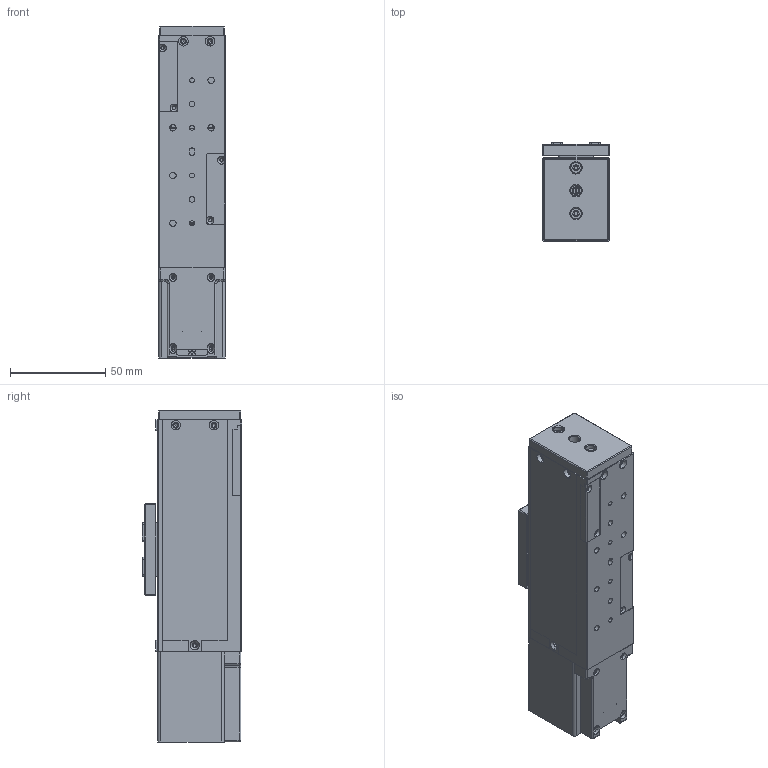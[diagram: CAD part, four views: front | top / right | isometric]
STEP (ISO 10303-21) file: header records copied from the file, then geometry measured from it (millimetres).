
FILE_DESCRIPTION (( 'STEP AP203' ), '1' );
FILE_NAME ('EMF35A47-B06P50.STEP', '2023-10-28T06:13:31', ( '' ), ( '' ), 'SwSTEP 2.0', 'SolidWorks 2023', '' );
FILE_SCHEMA (( 'CONFIG_CONTROL_DESIGN' ));
Length unit declared in the file: millimetre
Products named in the file (19): 35防尘安装板; 35分体轴承座; 35-50防尘钢带; 35防尘罩; 35钢带压片; 35轴承调节板; 28-42后导光片; 35轴承调节组件; 35-50光电滑台分体基座; 35A47-GZ0606-122; 28-42前导光片; 35-50防尘钢带底板; 35防尘滑台安装座; 35-50分体侧板; MGN12C-106导轨; 35A47.3端子盖; MGN12C滑块; EMF35A47-B06P50; 0606螺母
Assembly tree (20 placements, depth 3):
  EMF35A47-B06P50
    35-50光电滑台分体基座
    MGN12C-106导轨
    MGN12C滑块
    35防尘滑台安装座
    35轴承调节组件
      35分体轴承座
      35轴承调节板
    35-50分体侧板  x2
    35-50防尘钢带底板
    0606螺母
    35A47-GZ0606-122
    35防尘安装板
    35防尘罩
    35-50防尘钢带
    35钢带压片  x2
    28-42前导光片
    28-42后导光片
    35A47.3端子盖
Bounding box: 35 x 52 x 174.3 mm (x, y, z)
Volume: 180075.3 mm3; surface area: 98800.5 mm2
Topology: 19 solids, 19 shells, 1086 faces, 2873 edges, 1800 vertices
Faces by surface type: cylinder 513, plane 409, cone 115, torus 39, bspline 6, sphere 4
Entity records: 44407 total; most frequent: CARTESIAN_POINT 15881, DIRECTION 5728, ORIENTED_EDGE 5402, EDGE_CURVE 2701, AXIS2_PLACEMENT_3D 2099, VERTEX_POINT 1730, LINE 1530, VECTOR 1530
